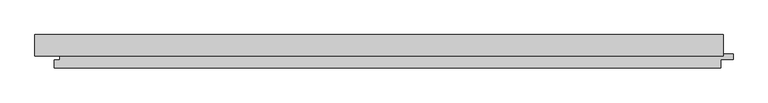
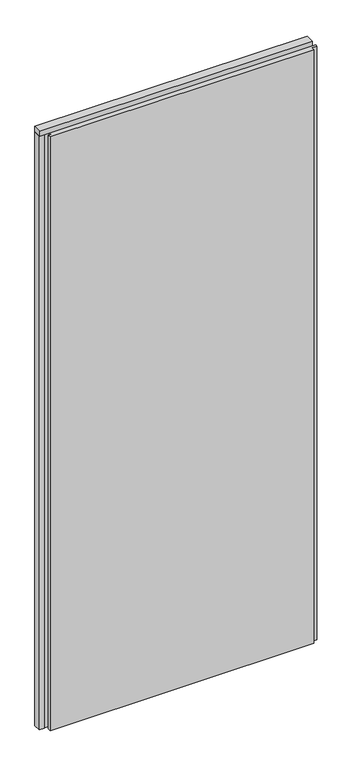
"""IFC4 building model written with IfcOpenShell, lengths in millimetres: plate geometry, Trimo_Qbiss Screen_Normal Panel-VERTICAL : HR - FB-F."""

from ifc_helpers import new_model, si_unit, frame, origin, place, context, project, spatial, polyline, outline, extrude, source, transform, mapped, element, save


def plate_fc203410(model_context):
    return source(origin(), model_context, "Body", "SweptSolid", [
        extrude(outline(polyline([(-531.0, 97.0), (-531.0, 126.0), (-512.0, 126.0), (-512.0, 97.0), (-531.0, 97.0)])), frame((0.0, 0.0, 12.5), z_axis=(0.0, 0.0, 1.0), x_axis=(1.0, 0.0, 0.0)), (0.0, 0.0, 1.0), 2375.0),
        extrude(outline(polyline([(-531.0, 93.9), (-531.0, 126.0), (500.0, 126.0), (500.0, 93.9), (-531.0, 93.9)])), frame((0.0, 0.0, 2390.5), z_axis=(0.0, 0.0, 1.0), x_axis=(1.0, 0.0, 0.0)), (0.0, 0.0, 1.0), 19.0),
        extrude(outline(polyline([(496.0, 97.0), (514.5, 97.0), (514.5, 89.0), (496.0, 89.0), (496.0, 76.0), (-502.0, 76.0), (-502.0, 88.0), (-493.5, 88.0), (-493.5, 98.0), (-509.0, 98.0), (-509.0, 126.0), (496.0, 126.0), (496.0, 97.0)])), frame((0.0, 0.0, 12.5), z_axis=(0.0, 0.0, 1.0), x_axis=(1.0, 0.0, 0.0)), (0.0, 0.0, 1.0), 2375.0),
    ])


if __name__ == "__main__":
    model = new_model("IFC4")
    model_context = context("Model", 3, world=origin())
    ifc_project = project(units=[si_unit("LENGTHUNIT", "METRE", prefix="MILLI")], contexts=[model_context])
    site = spatial("IfcSite", under=ifc_project)
    building = spatial("IfcBuilding", under=site)
    placement = place(None, origin())
    plate_shape = plate_fc203410(model_context)
    element("IfcPlate", 1, ObjectType="Trimo_Qbiss Screen_Normal Panel-VERTICAL : HR - FB-F", at=placement, inside=building, context=model_context, shape_type="MappedRepresentation", body=[
        mapped(plate_shape, transform((0.0, 0.0, 0.0), x_axis=(1.0, 0.0, 0.0), y_axis=(0.0, 1.0, 0.0), z_axis=(0.0, 0.0, 1.0))),
    ])
    save(model, "model.ifc")
